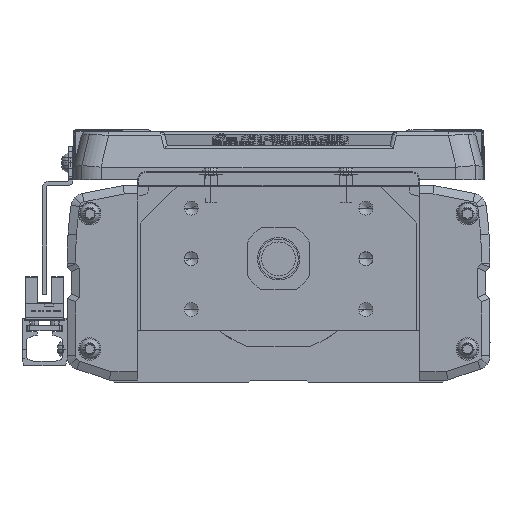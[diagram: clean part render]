
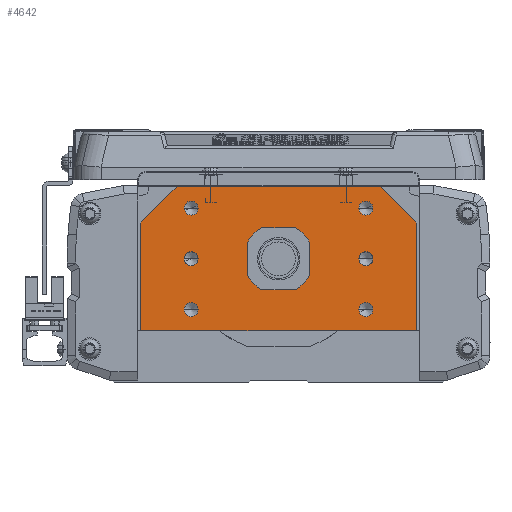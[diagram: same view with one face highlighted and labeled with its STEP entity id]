
A CAD part, left-side view. The second image highlights one B-rep face of the part: STEP entity #4642.
In plain terms, the highlighted planar face has unit normal (-1, 0, 0).
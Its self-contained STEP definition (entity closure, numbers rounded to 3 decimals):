
#4642=ADVANCED_FACE('',(#11220,#11221,#11222,#11223,#11224,#11225,#11226,#11227),#11228,.F.);
#11220=FACE_OUTER_BOUND('',#20782,.T.);
#11221=FACE_BOUND('',#20783,.T.);
#11222=FACE_BOUND('',#20784,.T.);
#11223=FACE_BOUND('',#20785,.T.);
#11224=FACE_BOUND('',#20786,.T.);
#11225=FACE_BOUND('',#20787,.T.);
#11226=FACE_BOUND('',#20788,.T.);
#11227=FACE_BOUND('',#20789,.T.);
#11228=PLANE('',#20790);
#20782=EDGE_LOOP('',(#34438,#34439,#34440,#34441,#34442,#34443,#34444,#34445));
#20783=EDGE_LOOP('',(#34446,#34447));
#20784=EDGE_LOOP('',(#34448,#34449));
#20785=EDGE_LOOP('',(#34450,#34451));
#20786=EDGE_LOOP('',(#34452,#34453));
#20787=EDGE_LOOP('',(#34454,#34455));
#20788=EDGE_LOOP('',(#34456,#34457));
#20789=EDGE_LOOP('',(#34458,#34459));
#20790=AXIS2_PLACEMENT_3D('',#34460,#34461,#34462);
#34438=ORIENTED_EDGE('',*,*,#57294,.F.);
#34439=ORIENTED_EDGE('',*,*,#55639,.F.);
#34440=ORIENTED_EDGE('',*,*,#57295,.F.);
#34441=ORIENTED_EDGE('',*,*,#57296,.F.);
#34442=ORIENTED_EDGE('',*,*,#57297,.F.);
#34443=ORIENTED_EDGE('',*,*,#57298,.F.);
#34444=ORIENTED_EDGE('',*,*,#53782,.F.);
#34445=ORIENTED_EDGE('',*,*,#56849,.F.);
#34446=ORIENTED_EDGE('',*,*,#57292,.T.);
#34447=ORIENTED_EDGE('',*,*,#57299,.T.);
#34448=ORIENTED_EDGE('',*,*,#57300,.T.);
#34449=ORIENTED_EDGE('',*,*,#57301,.T.);
#34450=ORIENTED_EDGE('',*,*,#57302,.T.);
#34451=ORIENTED_EDGE('',*,*,#57303,.T.);
#34452=ORIENTED_EDGE('',*,*,#53795,.T.);
#34453=ORIENTED_EDGE('',*,*,#57304,.T.);
#34454=ORIENTED_EDGE('',*,*,#57305,.T.);
#34455=ORIENTED_EDGE('',*,*,#57306,.T.);
#34456=ORIENTED_EDGE('',*,*,#57307,.T.);
#34457=ORIENTED_EDGE('',*,*,#57308,.T.);
#34458=ORIENTED_EDGE('',*,*,#55965,.F.);
#34459=ORIENTED_EDGE('',*,*,#57309,.F.);
#34460=CARTESIAN_POINT('',(0.,0.275,-2.548));
#34461=DIRECTION('',(1.0,0.,0.));
#34462=DIRECTION('',(0.,1.0,0.));
#53782=EDGE_CURVE('',#63754,#63755,#63756,.T.);
#53795=EDGE_CURVE('',#63773,#63777,#63779,.T.);
#55639=EDGE_CURVE('',#67066,#67062,#67068,.T.);
#55965=EDGE_CURVE('',#67622,#67617,#67624,.F.);
#56849=EDGE_CURVE('',#69050,#63754,#69053,.T.);
#57292=EDGE_CURVE('',#69736,#69738,#69740,.T.);
#57294=EDGE_CURVE('',#67062,#69050,#69742,.T.);
#57295=EDGE_CURVE('',#69743,#67066,#69744,.T.);
#57296=EDGE_CURVE('',#69745,#69743,#69746,.T.);
#57297=EDGE_CURVE('',#69747,#69745,#69748,.T.);
#57298=EDGE_CURVE('',#63755,#69747,#69749,.T.);
#57299=EDGE_CURVE('',#69738,#69736,#69750,.T.);
#57300=EDGE_CURVE('',#69751,#69752,#69753,.T.);
#57301=EDGE_CURVE('',#69752,#69751,#69754,.T.);
#57302=EDGE_CURVE('',#69755,#69756,#69757,.T.);
#57303=EDGE_CURVE('',#69756,#69755,#69758,.T.);
#57304=EDGE_CURVE('',#63777,#63773,#69759,.T.);
#57305=EDGE_CURVE('',#69760,#69761,#69762,.T.);
#57306=EDGE_CURVE('',#69761,#69760,#69763,.T.);
#57307=EDGE_CURVE('',#69764,#69765,#69766,.T.);
#57308=EDGE_CURVE('',#69765,#69764,#69767,.T.);
#57309=EDGE_CURVE('',#67617,#67622,#69768,.F.);
#63754=VERTEX_POINT('',#78327);
#63755=VERTEX_POINT('',#78328);
#63756=LINE('',#78329,#78330);
#63773=VERTEX_POINT('',#78352);
#63777=VERTEX_POINT('',#78357);
#63779=CIRCLE('',#78360,2.5);
#67062=VERTEX_POINT('',#83111);
#67066=VERTEX_POINT('',#83117);
#67068=LINE('',#83120,#83121);
#67617=VERTEX_POINT('',#83829);
#67622=VERTEX_POINT('',#83835);
#67624=CIRCLE('',#83838,7.5);
#69050=VERTEX_POINT('',#86677);
#69053=LINE('',#86681,#86682);
#69736=VERTEX_POINT('',#87673);
#69738=VERTEX_POINT('',#87676);
#69740=CIRCLE('',#87679,2.5);
#69742=LINE('',#87681,#87682);
#69743=VERTEX_POINT('',#87683);
#69744=LINE('',#87684,#87685);
#69745=VERTEX_POINT('',#87686);
#69746=LINE('',#87687,#87688);
#69747=VERTEX_POINT('',#87689);
#69748=LINE('',#87690,#87691);
#69749=LINE('',#87692,#87693);
#69750=CIRCLE('',#87694,2.5);
#69751=VERTEX_POINT('',#87695);
#69752=VERTEX_POINT('',#87696);
#69753=CIRCLE('',#87697,2.5);
#69754=CIRCLE('',#87698,2.5);
#69755=VERTEX_POINT('',#87699);
#69756=VERTEX_POINT('',#87700);
#69757=CIRCLE('',#87701,2.5);
#69758=CIRCLE('',#87702,2.5);
#69759=CIRCLE('',#87703,2.5);
#69760=VERTEX_POINT('',#87704);
#69761=VERTEX_POINT('',#87705);
#69762=CIRCLE('',#87706,2.5);
#69763=CIRCLE('',#87707,2.5);
#69764=VERTEX_POINT('',#87708);
#69765=VERTEX_POINT('',#87709);
#69766=CIRCLE('',#87710,2.5);
#69767=CIRCLE('',#87711,2.5);
#69768=CIRCLE('',#87712,7.5);
#78327=CARTESIAN_POINT('',(0.,-36.,25.7));
#78328=CARTESIAN_POINT('',(0.,-49.,12.7));
#78329=CARTESIAN_POINT('',(0.,-37.243,24.457));
#78330=VECTOR('',#99525,10.0);
#78352=CARTESIAN_POINT('',(0.,-33.5,18.));
#78357=CARTESIAN_POINT('',(0.,-28.5,18.));
#78360=AXIS2_PLACEMENT_3D('',#99542,#99543,#99544);
#83111=CARTESIAN_POINT('',(0.,49.,12.7));
#83117=CARTESIAN_POINT('',(0.,49.,-25.));
#83120=CARTESIAN_POINT('',(0.,49.,-25.));
#83121=VECTOR('',#102276,10.0);
#83829=CARTESIAN_POINT('',(0.,-7.5,0.));
#83835=CARTESIAN_POINT('',(0.,7.5,0.));
#83838=AXIS2_PLACEMENT_3D('',#102759,#102760,#102761);
#86677=CARTESIAN_POINT('',(0.,36.,25.7));
#86681=CARTESIAN_POINT('',(0.,34.5,25.7));
#86682=VECTOR('',#103900,10.0);
#87673=CARTESIAN_POINT('',(0.,33.5,-18.));
#87676=CARTESIAN_POINT('',(0.,28.5,-18.));
#87679=AXIS2_PLACEMENT_3D('',#104451,#104452,#104453);
#87681=CARTESIAN_POINT('',(0.,37.381,24.319));
#87682=VECTOR('',#104454,10.);
#87683=CARTESIAN_POINT('',(0.,48.5,-25.5));
#87684=CARTESIAN_POINT('',(0.,48.5,-25.5));
#87685=VECTOR('',#104455,10.0);
#87686=CARTESIAN_POINT('',(0.,-48.5,-25.5));
#87687=CARTESIAN_POINT('',(0.,0.,-25.5));
#87688=VECTOR('',#104456,10.0);
#87689=CARTESIAN_POINT('',(0.,-49.,-25.));
#87690=CARTESIAN_POINT('',(0.,-49.,-25.));
#87691=VECTOR('',#104457,10.0);
#87692=CARTESIAN_POINT('',(0.,-49.,-14.));
#87693=VECTOR('',#104458,10.0);
#87694=AXIS2_PLACEMENT_3D('',#104459,#104460,#104461);
#87695=CARTESIAN_POINT('',(0.,-33.5,-18.));
#87696=CARTESIAN_POINT('',(0.,-28.5,-18.));
#87697=AXIS2_PLACEMENT_3D('',#104462,#104463,#104464);
#87698=AXIS2_PLACEMENT_3D('',#104465,#104466,#104467);
#87699=CARTESIAN_POINT('',(0.,33.5,18.));
#87700=CARTESIAN_POINT('',(0.,28.5,18.));
#87701=AXIS2_PLACEMENT_3D('',#104468,#104469,#104470);
#87702=AXIS2_PLACEMENT_3D('',#104471,#104472,#104473);
#87703=AXIS2_PLACEMENT_3D('',#104474,#104475,#104476);
#87704=CARTESIAN_POINT('',(0.,33.5,0.));
#87705=CARTESIAN_POINT('',(0.,28.5,0.));
#87706=AXIS2_PLACEMENT_3D('',#104477,#104478,#104479);
#87707=AXIS2_PLACEMENT_3D('',#104480,#104481,#104482);
#87708=CARTESIAN_POINT('',(0.,-33.5,0.));
#87709=CARTESIAN_POINT('',(0.,-28.5,0.));
#87710=AXIS2_PLACEMENT_3D('',#104483,#104484,#104485);
#87711=AXIS2_PLACEMENT_3D('',#104486,#104487,#104488);
#87712=AXIS2_PLACEMENT_3D('',#104489,#104490,#104491);
#99525=DIRECTION('',(0.,-0.707,-0.707));
#99542=CARTESIAN_POINT('',(0.,-31.,18.));
#99543=DIRECTION('',(1.0,0.,0.));
#99544=DIRECTION('',(0.,-1.0,0.));
#102276=DIRECTION('',(0.,0.,1.0));
#102759=CARTESIAN_POINT('',(0.,0.,0.));
#102760=DIRECTION('',(1.0,0.,0.));
#102761=DIRECTION('',(0.,-1.0,0.));
#103900=DIRECTION('',(0.,-1.0,0.));
#104451=CARTESIAN_POINT('',(0.,31.,-18.));
#104452=DIRECTION('',(1.0,0.,0.));
#104453=DIRECTION('',(0.,1.0,0.));
#104454=DIRECTION('',(0.,-0.707,0.707));
#104455=DIRECTION('',(0.,0.707,0.707));
#104456=DIRECTION('',(0.,1.0,0.));
#104457=DIRECTION('',(0.,0.707,-0.707));
#104458=DIRECTION('',(0.,0.,-1.0));
#104459=CARTESIAN_POINT('',(0.,31.,-18.));
#104460=DIRECTION('',(1.0,0.,0.));
#104461=DIRECTION('',(0.,1.0,0.));
#104462=CARTESIAN_POINT('',(0.,-31.,-18.));
#104463=DIRECTION('',(1.0,0.,0.));
#104464=DIRECTION('',(0.,-1.0,0.));
#104465=CARTESIAN_POINT('',(0.,-31.,-18.));
#104466=DIRECTION('',(1.0,0.,0.));
#104467=DIRECTION('',(0.,-1.0,0.));
#104468=CARTESIAN_POINT('',(0.,31.,18.));
#104469=DIRECTION('',(1.0,0.,0.));
#104470=DIRECTION('',(0.,1.0,0.));
#104471=CARTESIAN_POINT('',(0.,31.,18.));
#104472=DIRECTION('',(1.0,0.,0.));
#104473=DIRECTION('',(0.,1.0,0.));
#104474=CARTESIAN_POINT('',(0.,-31.,18.));
#104475=DIRECTION('',(1.0,0.,0.));
#104476=DIRECTION('',(0.,-1.0,0.));
#104477=CARTESIAN_POINT('',(0.,31.,0.));
#104478=DIRECTION('',(1.0,0.,0.));
#104479=DIRECTION('',(0.,1.0,0.));
#104480=CARTESIAN_POINT('',(0.,31.,0.));
#104481=DIRECTION('',(1.0,0.,0.));
#104482=DIRECTION('',(0.,1.0,0.));
#104483=CARTESIAN_POINT('',(0.,-31.,0.));
#104484=DIRECTION('',(1.0,0.,0.));
#104485=DIRECTION('',(0.,-1.0,0.));
#104486=CARTESIAN_POINT('',(0.,-31.,0.));
#104487=DIRECTION('',(1.0,0.,0.));
#104488=DIRECTION('',(0.,-1.0,0.));
#104489=CARTESIAN_POINT('',(0.,0.,0.));
#104490=DIRECTION('',(1.0,0.,0.));
#104491=DIRECTION('',(0.,-1.0,0.));
